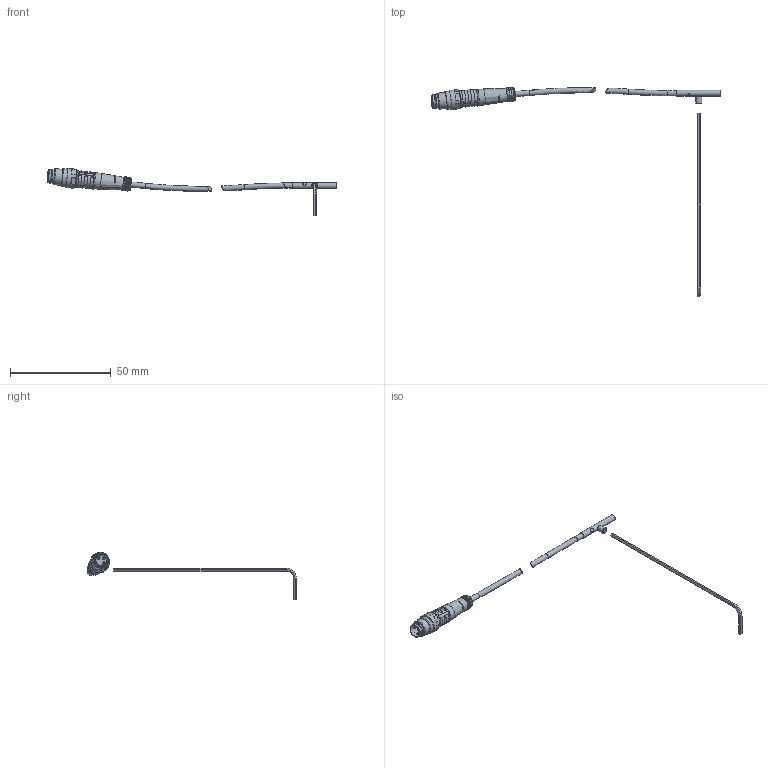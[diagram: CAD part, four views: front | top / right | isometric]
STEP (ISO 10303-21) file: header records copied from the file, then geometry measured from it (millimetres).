
FILE_DESCRIPTION(/* description */ (''),/* implementation_level */ '2;1');
FILE_NAME(/* name */ 'T:\CAD\Standard\AC\G-AC063\3D ZG-AC-IN1-150-M8.stp',/* time_stamp */ '2023-07-12T14:36:26+02:00',/* author */ ('vbednarz'),/* organization */ (''),/* preprocessor_version */ 'ST-DEVELOPER v17',/* originating_system */ 'Autodesk Inventor 2018',/* authorisation */ '');
FILE_SCHEMA (('AUTOMOTIVE_DESIGN { 1 0 10303 214 3 1 1 }'));
Length unit declared in the file: millimetre
Products named in the file (1): 3D ZG-AC-IN1-150-M8.step
Bounding box: 144.06 x 103.95 x 23.59 mm (x, y, z)
Volume: 2648.7 mm3; surface area: 2821.3 mm2
Topology: 4 solids, 4 shells, 174 faces, 440 edges, 290 vertices
Faces by surface type: plane 83, cylinder 59, cone 19, torus 8, sphere 3, bspline 2
Full cylindrical faces by diameter (mm): 1 x3, 1.5 x1, 2.6 x2, 3 x2, 5.8 x1, 5.9 x1, 6.5 x1, 6.501 x4, 6.9 x1, 8 x2, 8.4 x1, 8.8 x1, 9.6 x1
Entity records: 7699 total; most frequent: CARTESIAN_POINT 3276, DIRECTION 875, ORIENTED_EDGE 874, EDGE_CURVE 437, AXIS2_PLACEMENT_3D 340, VERTEX_POINT 290, LINE 195, VECTOR 195
